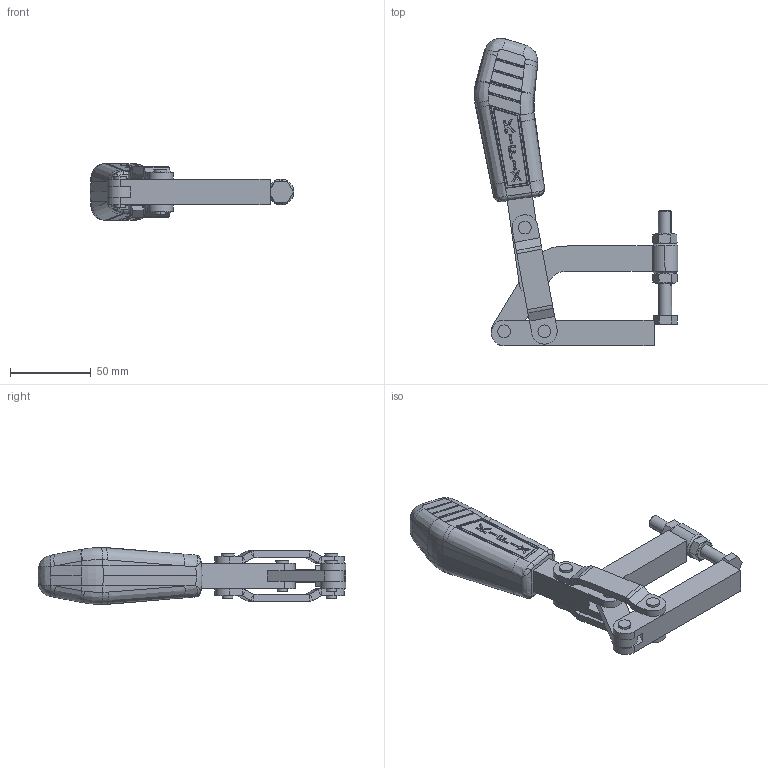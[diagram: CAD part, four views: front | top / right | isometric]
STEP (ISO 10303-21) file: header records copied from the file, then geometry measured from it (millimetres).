
FILE_DESCRIPTION (( 'STEP AP203' ), '1' );
FILE_NAME ('KF-03 MP.STEP', '2015-07-17T12:01:54', ( 'Ricardo' ), ( '' ), 'SwSTEP 2.0', 'SolidWorks 2014', '' );
FILE_SCHEMA (( 'CONFIG_CONTROL_DESIGN' ));
Length unit declared in the file: millimetre
Products named in the file (12): 12.50020; 11.50002; 02.10008; PSB-M8; 03.15008_Montagem; 07.60201; 01.20002; KF-03 MP; 08.10013; 06.50014; 06.50015; 20.20004
Assembly tree (15 placements, depth 3):
  KF-03 MP
    02.10008
    03.15008_Montagem
    01.20002
    08.10013  x2
    06.50014  x2
    06.50015  x2
    PSB-M8
      20.20004
      12.50020
      11.50002  x2
    07.60201
Bounding box: 126.35 x 190.86 x 35.03 mm (x, y, z)
Volume: 169915.5 mm3; surface area: 56403.3 mm2
Topology: 14 solids, 14 shells, 742 faces, 1874 edges, 1168 vertices
Faces by surface type: bspline 271, plane 232, cylinder 144, sphere 52, cone 40, torus 3
Entity records: 28396 total; most frequent: CARTESIAN_POINT 13622, ORIENTED_EDGE 3346, DIRECTION 1965, EDGE_CURVE 1673, VERTEX_POINT 1058, B_SPLINE_CURVE_WITH_KNOTS 853, AXIS2_PLACEMENT_3D 761, EDGE_LOOP 709
